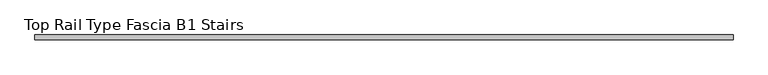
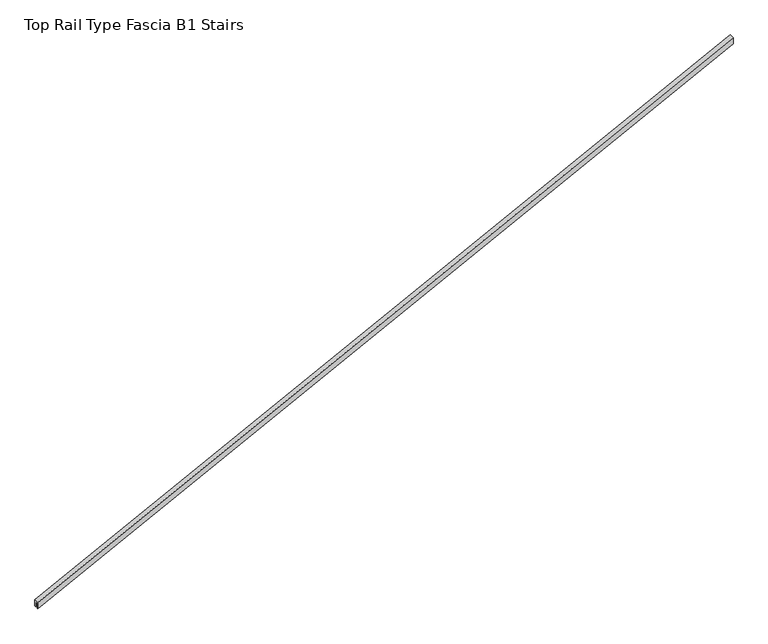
"""IFC4 building model written with IfcOpenShell, lengths in millimetres: proxy geometry, Top Rail Type Fascia B1 Stairs."""

from ifc_helpers import new_model, si_unit, origin, place, context, project, spatial, faceted_brep, source, transform, mapped, element, save


def top_rail_type_fascia_b1_stairs_2a6ce0e3(model_context):
    return source(origin(), model_context, "Body", "Brep", [
        faceted_brep([(1428.9734986, 22792.3176645, 1279.2634433), (1428.9734986, 22814.5426645, 1279.2634433), (1428.9734986, 22814.5426645, 1250.7622547), (1428.9734986, 22809.7801645, 1250.7622547), (1428.9734986, 22809.7801645, 1273.9194705), (1428.9734986, 22797.0801645, 1273.9194705), (1428.9734986, 22797.0801645, 1250.7622547), (1428.9734986, 22792.3176645, 1250.7622547), (4578.5734986, 22792.3176645, 2882.453263), (4578.5734986, 22792.3176645, 2853.9520744), (4578.5734986, 22797.0801645, 2853.9520744), (4578.5734986, 22797.0801645, 2877.1092902), (4578.5734986, 22809.7801645, 2877.1092902), (4578.5734986, 22809.7801645, 2853.9520744), (4578.5734986, 22814.5426645, 2853.9520744), (4578.5734986, 22814.5426645, 2882.453263)], [[[0, 1, 2, 3, 4, 5, 6, 7]], [[8, 9, 10, 11, 12, 13, 14, 15]], [[1, 0, 8, 15]], [[2, 1, 15, 14]], [[3, 2, 14, 13]], [[4, 3, 13, 12]], [[5, 4, 12, 11]], [[6, 5, 11, 10]], [[7, 6, 10, 9]], [[0, 7, 9, 8]]]),
    ])


if __name__ == "__main__":
    model = new_model("IFC4")
    model_context = context("Model", 3, world=origin())
    ifc_project = project(units=[si_unit("LENGTHUNIT", "METRE", prefix="MILLI")], contexts=[model_context])
    site = spatial("IfcSite", under=ifc_project)
    building = spatial("IfcBuilding", under=site)
    placement = place(None, origin())
    top_rail_type_fascia_b1_stairs_shape = top_rail_type_fascia_b1_stairs_2a6ce0e3(model_context)
    element("IfcBuildingElementProxy", 1, Name="Top Rail Type Fascia B1 Stairs", ObjectType="Top Rail Type Fascia B1 Stairs", at=placement, inside=building, context=model_context, shape_type="MappedRepresentation", body=[
        mapped(top_rail_type_fascia_b1_stairs_shape, transform((0.0, 0.0, 0.0), x_axis=(1.0, 0.0, 0.0), y_axis=(0.0, 1.0, 0.0), z_axis=(0.0, 0.0, 1.0))),
    ])
    save(model, "model.ifc")
